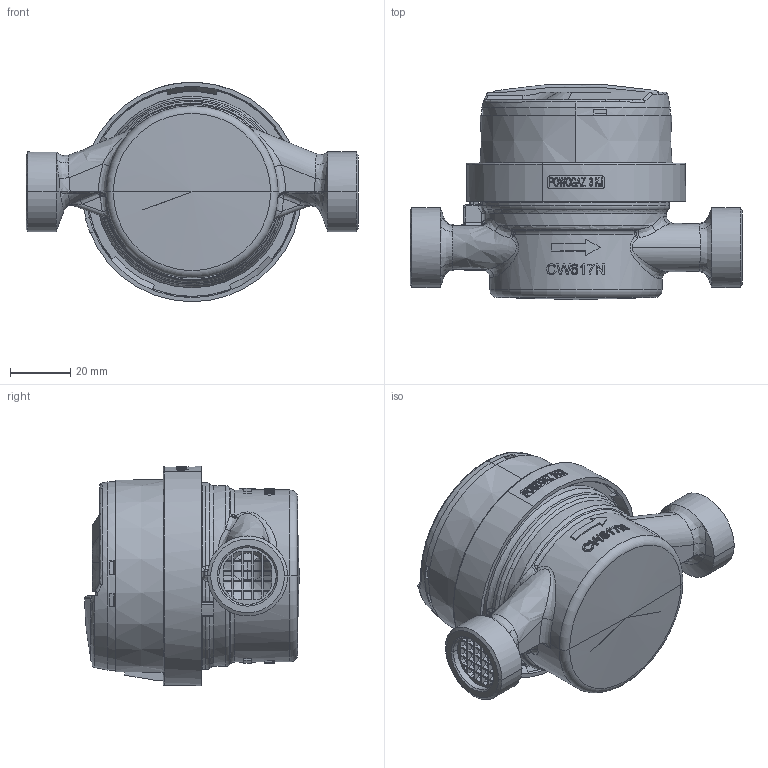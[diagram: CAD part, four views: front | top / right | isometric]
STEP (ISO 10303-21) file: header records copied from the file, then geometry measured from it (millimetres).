
FILE_DESCRIPTION (( 'STEP AP214' ), '1' );
FILE_NAME ('JS-2,5-02.STEP', '2025-05-23T11:13:08', ( '' ), ( '' ), 'SwSTEP 2.0', 'SolidWorks 2019', '' );
FILE_SCHEMA (( 'AUTOMOTIVE_DESIGN' ));
Length unit declared in the file: millimetre
Products named in the file (1): JS-2,5-02
Bounding box: 110 x 71.3 x 72.69 mm (x, y, z)
Volume: 205881.7 mm3; surface area: 50824.9 mm2
Topology: 3 solids, 5 shells, 944 faces, 2569 edges, 1641 vertices
Faces by surface type: plane 439, bspline 222, cylinder 161, cone 84, torus 28, sphere 10
Entity records: 48974 total; most frequent: CARTESIAN_POINT 16584, ORIENTED_EDGE 5092, DIRECTION 3917, EDGE_CURVE 2546, VERTEX_POINT 1641, AXIS2_PLACEMENT_3D 1385, LINE 1147, VECTOR 1147
